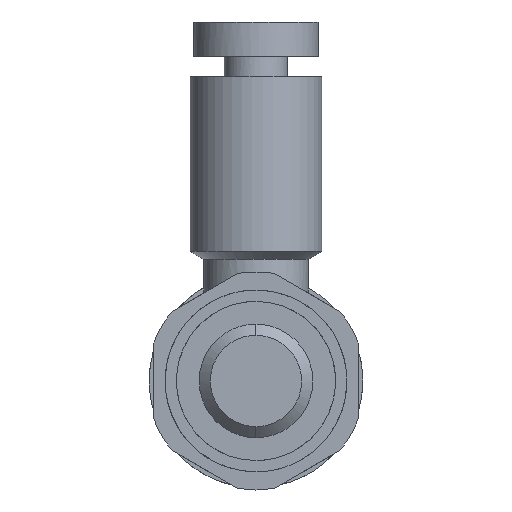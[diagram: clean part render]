
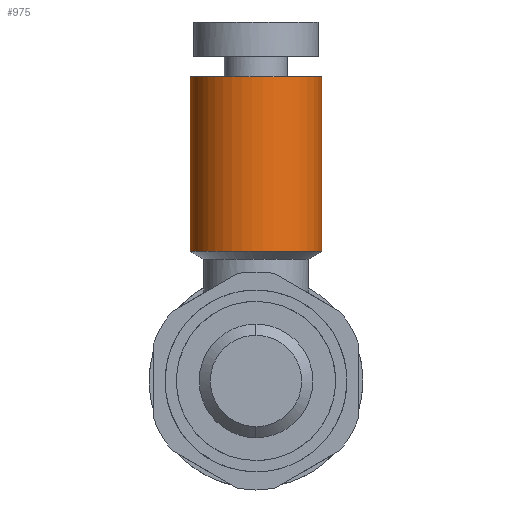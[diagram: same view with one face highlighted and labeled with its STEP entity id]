
A CAD part, front view. The second image highlights one B-rep face of the part: STEP entity #975.
In plain terms, the highlighted free-form (B-spline) face has degree [1, 3] with [2, 4] control points.
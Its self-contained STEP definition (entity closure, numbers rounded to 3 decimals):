
#4 = CARTESIAN_POINT ( 'NONE',  ( -2.9, 8.1, 5.7 ) ) ;
#40 = VERTEX_POINT ( 'NONE', #1737 ) ;
#51 = EDGE_LOOP ( 'NONE', ( #2043, #1187, #287, #1053 ) ) ;
#88 =( BOUNDED_CURVE ( )  B_SPLINE_CURVE ( 3, ( #2292, #1327, #1488, #1278 ),
 .UNSPECIFIED., .F., .T. ) 
 B_SPLINE_CURVE_WITH_KNOTS ( ( 4, 4 ),
 ( 0., 1. ),
 .UNSPECIFIED. ) 
 CURVE ( )  GEOMETRIC_REPRESENTATION_ITEM ( )  RATIONAL_B_SPLINE_CURVE ( ( 1., 0.333, 0.333, 1. ) ) 
 REPRESENTATION_ITEM ( '' )  );
#124 =( BOUNDED_SURFACE ( )  B_SPLINE_SURFACE ( 1, 3, ( 
 ( #985, #1794, #4, #788 ),
 ( #1599, #2003, #2379, #2245 ) ),
 .UNSPECIFIED., .F., .F., .F. ) 
 B_SPLINE_SURFACE_WITH_KNOTS ( ( 2, 2 ),
 ( 4, 4 ),
 ( 0., 1. ),
 ( 0., 1. ),
 .UNSPECIFIED. ) 
 GEOMETRIC_REPRESENTATION_ITEM ( )  RATIONAL_B_SPLINE_SURFACE ( (
 ( 1., 0.333, 0.333, 1.),
 ( 1., 0.333, 0.333, 1.) ) ) 
 REPRESENTATION_ITEM ( '' )  SURFACE ( )  );
#206 = VERTEX_POINT ( 'NONE', #1337 ) ;
#268 = B_SPLINE_CURVE_WITH_KNOTS ( 'NONE', 1,
 ( #2176, #583 ),
 .UNSPECIFIED., .F., .F.,
 ( 2, 2 ),
 ( 0., 1. ),
 .UNSPECIFIED. ) ;
#287 = ORIENTED_EDGE ( 'NONE', *, *, #2564, .T. ) ;
#341 = CARTESIAN_POINT ( 'NONE',  ( 2.9, 8.1, 13.4 ) ) ;
#343 = CARTESIAN_POINT ( 'NONE',  ( 2.9, 13.9, 5.7 ) ) ;
#373 = B_SPLINE_CURVE_WITH_KNOTS ( 'NONE', 1,
 ( #343, #737 ),
 .UNSPECIFIED., .F., .F.,
 ( 2, 2 ),
 ( 0., 1. ),
 .UNSPECIFIED. ) ;
#574 = CARTESIAN_POINT ( 'NONE',  ( 2.9, 13.9, 13.4 ) ) ;
#583 = CARTESIAN_POINT ( 'NONE',  ( -2.9, 13.9, 13.4 ) ) ;
#655 = CARTESIAN_POINT ( 'NONE',  ( 2.9, 13.9, 5.7 ) ) ;
#737 = CARTESIAN_POINT ( 'NONE',  ( 2.9, 13.9, 13.4 ) ) ;
#759 = CARTESIAN_POINT ( 'NONE',  ( -2.9, 8.1, 13.4 ) ) ;
#775 = CARTESIAN_POINT ( 'NONE',  ( -2.9, 13.9, 5.7 ) ) ;
#788 = CARTESIAN_POINT ( 'NONE',  ( -2.9, 13.9, 5.7 ) ) ;
#794 = EDGE_CURVE ( 'NONE', #2271, #206, #373, .T. ) ;
#832 = VERTEX_POINT ( 'NONE', #775 ) ;
#975 = ADVANCED_FACE ( 'NONE', ( #2182 ), #124, .T. ) ;
#985 = CARTESIAN_POINT ( 'NONE',  ( 2.9, 13.9, 5.7 ) ) ;
#1053 = ORIENTED_EDGE ( 'NONE', *, *, #2132, .F. ) ;
#1187 = ORIENTED_EDGE ( 'NONE', *, *, #794, .T. ) ;
#1278 = CARTESIAN_POINT ( 'NONE',  ( -2.9, 13.9, 5.7 ) ) ;
#1327 = CARTESIAN_POINT ( 'NONE',  ( 2.9, 8.1, 5.7 ) ) ;
#1337 = CARTESIAN_POINT ( 'NONE',  ( 2.9, 13.9, 13.4 ) ) ;
#1488 = CARTESIAN_POINT ( 'NONE',  ( -2.9, 8.1, 5.7 ) ) ;
#1510 = EDGE_CURVE ( 'NONE', #2271, #832, #88, .T. ) ;
#1599 = CARTESIAN_POINT ( 'NONE',  ( 2.9, 13.9, 13.4 ) ) ;
#1737 = CARTESIAN_POINT ( 'NONE',  ( -2.9, 13.9, 13.4 ) ) ;
#1794 = CARTESIAN_POINT ( 'NONE',  ( 2.9, 8.1, 5.7 ) ) ;
#1904 =( BOUNDED_CURVE ( )  B_SPLINE_CURVE ( 3, ( #574, #341, #759, #2533 ),
 .UNSPECIFIED., .F., .F. ) 
 B_SPLINE_CURVE_WITH_KNOTS ( ( 4, 4 ),
 ( 0.5, 1. ),
 .UNSPECIFIED. ) 
 CURVE ( )  GEOMETRIC_REPRESENTATION_ITEM ( )  RATIONAL_B_SPLINE_CURVE ( ( 1., 0.333, 0.333, 1. ) ) 
 REPRESENTATION_ITEM ( '' )  );
#2003 = CARTESIAN_POINT ( 'NONE',  ( 2.9, 8.1, 13.4 ) ) ;
#2043 = ORIENTED_EDGE ( 'NONE', *, *, #1510, .F. ) ;
#2132 = EDGE_CURVE ( 'NONE', #832, #40, #268, .T. ) ;
#2176 = CARTESIAN_POINT ( 'NONE',  ( -2.9, 13.9, 5.7 ) ) ;
#2182 = FACE_OUTER_BOUND ( 'NONE', #51, .T. ) ;
#2245 = CARTESIAN_POINT ( 'NONE',  ( -2.9, 13.9, 13.4 ) ) ;
#2271 = VERTEX_POINT ( 'NONE', #655 ) ;
#2292 = CARTESIAN_POINT ( 'NONE',  ( 2.9, 13.9, 5.7 ) ) ;
#2379 = CARTESIAN_POINT ( 'NONE',  ( -2.9, 8.1, 13.4 ) ) ;
#2533 = CARTESIAN_POINT ( 'NONE',  ( -2.9, 13.9, 13.4 ) ) ;
#2564 = EDGE_CURVE ( 'NONE', #206, #40, #1904, .T. ) ;
